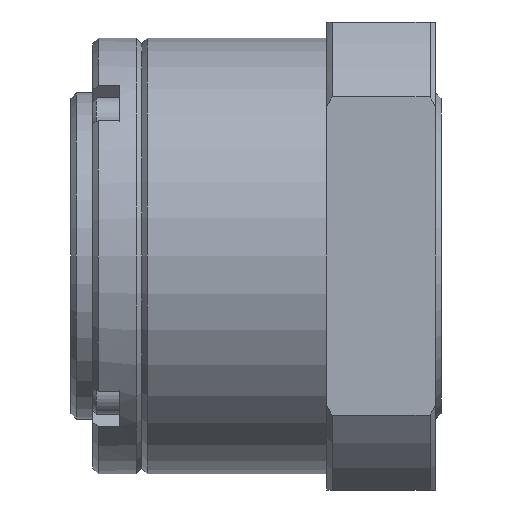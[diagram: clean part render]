
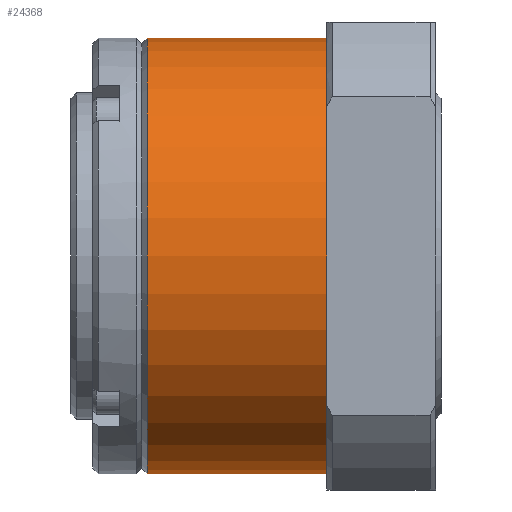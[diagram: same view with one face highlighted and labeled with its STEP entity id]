
A CAD part, left-side view. The second image highlights one B-rep face of the part: STEP entity #24368.
In plain terms, the highlighted cylindrical face has radius 20 mm (diameter 40 mm), a partial arc.
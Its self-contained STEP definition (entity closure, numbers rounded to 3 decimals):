
#21950=CARTESIAN_POINT('',(0.,-4.,0.));
#21951=DIRECTION('',(0.,-1.,0.));
#21952=DIRECTION('',(0.,0.,1.));
#21953=AXIS2_PLACEMENT_3D('',#21950,#21951,#21952);
#22360=DIRECTION('',(0.,-1.,0.));
#22361=VECTOR('',#22360,16.5);
#22362=CARTESIAN_POINT('',(0.,12.5,20.));
#22363=LINE('',#22362,#22361);
#22367=DIRECTION('',(0.,-1.,0.));
#22368=VECTOR('',#22367,16.5);
#22369=CARTESIAN_POINT('',(0.,12.5,-20.));
#22370=LINE('',#22369,#22368);
#22374=CARTESIAN_POINT('',(0.,12.5,0.));
#22375=DIRECTION('',(0.,1.,0.));
#22376=DIRECTION('',(0.,0.,-1.));
#22377=AXIS2_PLACEMENT_3D('',#22374,#22375,#22376);
#23440=CARTESIAN_POINT('',(0.,12.5,-20.));
#23441=CARTESIAN_POINT('',(0.,-4.,-20.));
#23442=VERTEX_POINT('',#23440);
#23443=VERTEX_POINT('',#23441);
#23444=CARTESIAN_POINT('',(0.,12.5,20.));
#23445=CARTESIAN_POINT('',(0.,-4.,20.));
#23446=VERTEX_POINT('',#23444);
#23447=VERTEX_POINT('',#23445);
#24354=CARTESIAN_POINT('',(0.,19.5,0.));
#24355=DIRECTION('',(0.,-1.,0.));
#24356=DIRECTION('',(0.,0.,-1.));
#24357=AXIS2_PLACEMENT_3D('',#24354,#24355,#24356);
#24358=CYLINDRICAL_SURFACE('',#24357,20.);
#24360=ORIENTED_EDGE('',*,*,#24359,.T.);
#24362=ORIENTED_EDGE('',*,*,#24361,.T.);
#24363=ORIENTED_EDGE('',*,*,#23970,.T.);
#24365=ORIENTED_EDGE('',*,*,#24364,.F.);
#24366=EDGE_LOOP('',(#24360,#24362,#24363,#24365));
#24367=FACE_OUTER_BOUND('',#24366,.F.);
#21954=CIRCLE('',#21953,20.);
#22378=CIRCLE('',#22377,20.);
#23970=EDGE_CURVE('',#23447,#23443,#21954,.T.);
#24359=EDGE_CURVE('',#23442,#23446,#22378,.T.);
#24361=EDGE_CURVE('',#23446,#23447,#22363,.T.);
#24364=EDGE_CURVE('',#23442,#23443,#22370,.T.);
#24368=ADVANCED_FACE('',(#24367),#24358,.T.);
